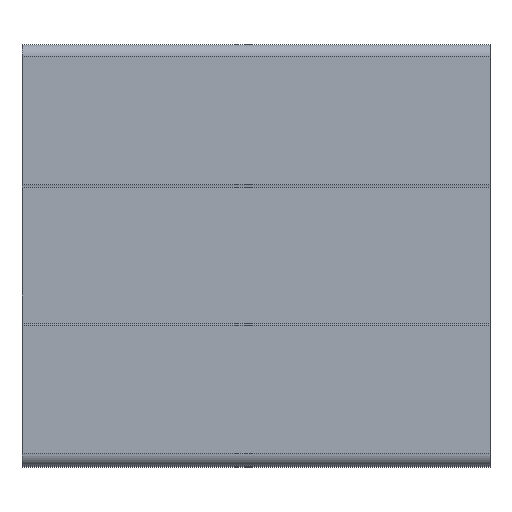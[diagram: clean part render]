
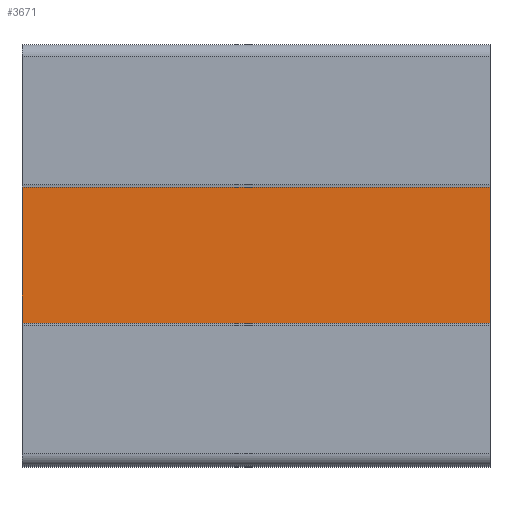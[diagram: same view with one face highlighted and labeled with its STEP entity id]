
A CAD part, top view. The second image highlights one B-rep face of the part: STEP entity #3671.
In plain terms, the highlighted planar face has unit normal (0, 0, 1).
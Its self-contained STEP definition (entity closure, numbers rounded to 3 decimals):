
#474 = EDGE_LOOP ( 'NONE', ( #1544, #7351, #2296, #7195 ) ) ;
#535 = DIRECTION ( 'NONE',  ( -1., 0., 0. ) ) ;
#1133 = DIRECTION ( 'NONE',  ( -1., 0., 0. ) ) ;
#1544 = ORIENTED_EDGE ( 'NONE', *, *, #8539, .T. ) ;
#1858 = CARTESIAN_POINT ( 'NONE',  ( 59.184, 40.383, 205. ) ) ;
#2066 = VERTEX_POINT ( 'NONE', #3970 ) ;
#2233 = VECTOR ( 'NONE', #2299, 1000. ) ;
#2296 = ORIENTED_EDGE ( 'NONE', *, *, #9322, .F. ) ;
#2299 = DIRECTION ( 'NONE',  ( 0., -1., 0. ) ) ;
#2322 = CARTESIAN_POINT ( 'NONE',  ( 59.184, 69.413, 205. ) ) ;
#2396 = CARTESIAN_POINT ( 'NONE',  ( -40.816, 69.413, 205. ) ) ;
#2638 = DIRECTION ( 'NONE',  ( 0., 0., -1. ) ) ;
#2997 = CARTESIAN_POINT ( 'NONE',  ( -40.816, 69.413, 205. ) ) ;
#3030 = LINE ( 'NONE', #2322, #8667 ) ;
#3114 = EDGE_CURVE ( 'NONE', #6193, #6537, #3030, .T. ) ;
#3671 = ADVANCED_FACE ( 'NONE', ( #7624 ), #8625, .F. ) ;
#3970 = CARTESIAN_POINT ( 'NONE',  ( 59.184, 40.383, 205. ) ) ;
#4035 = CARTESIAN_POINT ( 'NONE',  ( 59.184, 69.413, 205. ) ) ;
#4128 = CARTESIAN_POINT ( 'NONE',  ( 59.184, 69.413, 205. ) ) ;
#4374 = CARTESIAN_POINT ( 'NONE',  ( -40.816, 40.383, 205. ) ) ;
#4395 = CARTESIAN_POINT ( 'NONE',  ( 59.184, 69.413, 205. ) ) ;
#4987 = LINE ( 'NONE', #4035, #8650 ) ;
#5117 = LINE ( 'NONE', #1858, #8236 ) ;
#5980 = DIRECTION ( 'NONE',  ( -1., 0., 0. ) ) ;
#6193 = VERTEX_POINT ( 'NONE', #4395 ) ;
#6345 = DIRECTION ( 'NONE',  ( 0., -1., 0. ) ) ;
#6537 = VERTEX_POINT ( 'NONE', #2396 ) ;
#6967 = LINE ( 'NONE', #2997, #2233 ) ;
#7195 = ORIENTED_EDGE ( 'NONE', *, *, #3114, .T. ) ;
#7351 = ORIENTED_EDGE ( 'NONE', *, *, #8819, .F. ) ;
#7624 = FACE_OUTER_BOUND ( 'NONE', #474, .T. ) ;
#7702 = VERTEX_POINT ( 'NONE', #4374 ) ;
#8236 = VECTOR ( 'NONE', #1133, 1000. ) ;
#8539 = EDGE_CURVE ( 'NONE', #6537, #7702, #6967, .T. ) ;
#8625 = PLANE ( 'NONE',  #9042 ) ;
#8650 = VECTOR ( 'NONE', #6345, 1000. ) ;
#8667 = VECTOR ( 'NONE', #5980, 1000. ) ;
#8819 = EDGE_CURVE ( 'NONE', #2066, #7702, #5117, .T. ) ;
#9042 = AXIS2_PLACEMENT_3D ( 'NONE', #4128, #2638, #535 ) ;
#9322 = EDGE_CURVE ( 'NONE', #6193, #2066, #4987, .T. ) ;
